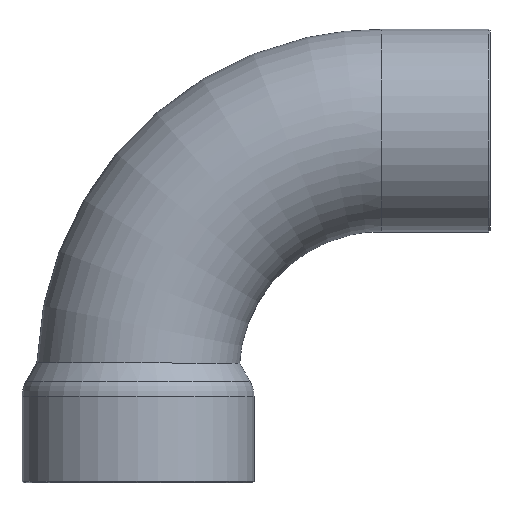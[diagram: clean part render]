
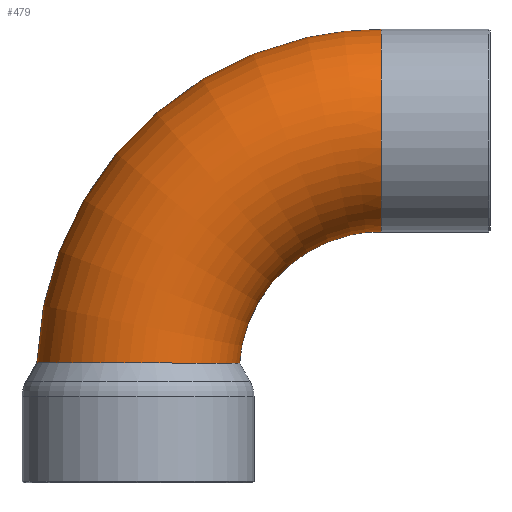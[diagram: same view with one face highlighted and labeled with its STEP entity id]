
A CAD part, left-side view. The second image highlights one B-rep face of the part: STEP entity #479.
In plain terms, the highlighted toroidal (fillet/blend) face has major radius 80 mm and minor radius 33.337 mm.
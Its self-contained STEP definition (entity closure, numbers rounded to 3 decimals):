
#101=CARTESIAN_POINT('',(33.338,0.,80.0));
#102=VERTEX_POINT('',#101);
#103=CARTESIAN_POINT('',(0.0,0.,80.0));
#104=DIRECTION('',(0.0,1.0,0.0));
#105=DIRECTION('',(-1.0,0.0,0.0));
#106=AXIS2_PLACEMENT_3D('',#103,#104,#105);
#107=CIRCLE('',#106,33.338);
#108=EDGE_CURVE('',#102,#102,#107,.T.);
#340=CARTESIAN_POINT('',(0.,113.276,3.726));
#341=VERTEX_POINT('',#340);
#342=CARTESIAN_POINT('',(0.,113.276,3.726));
#343=CARTESIAN_POINT('',(-2.98,113.276,3.726));
#344=CARTESIAN_POINT('',(-5.947,112.876,3.725));
#345=CARTESIAN_POINT('',(-11.676,111.304,3.721));
#346=CARTESIAN_POINT('',(-14.413,110.143,3.718));
#347=CARTESIAN_POINT('',(-20.756,106.393,3.709));
#348=CARTESIAN_POINT('',(-24.068,103.418,3.701));
#349=CARTESIAN_POINT('',(-29.374,96.314,3.68));
#350=CARTESIAN_POINT('',(-31.298,92.243,3.667));
#351=CARTESIAN_POINT('',(-33.424,83.623,3.635));
#352=CARTESIAN_POINT('',(-33.62,79.164,3.617));
#353=CARTESIAN_POINT('',(-32.261,70.403,3.576));
#354=CARTESIAN_POINT('',(-30.708,66.189,3.553));
#355=CARTESIAN_POINT('',(-26.144,58.777,3.506));
#356=CARTESIAN_POINT('',(-23.238,55.612,3.483));
#357=CARTESIAN_POINT('',(-16.261,50.447,3.441));
#358=CARTESIAN_POINT('',(-12.218,48.548,3.424));
#359=CARTESIAN_POINT('',(-4.592,46.679,3.406));
#360=CARTESIAN_POINT('',(-1.156,46.382,3.403));
#361=CARTESIAN_POINT('',(6.432,46.9,3.408));
#362=CARTESIAN_POINT('',(10.508,47.966,3.419));
#363=CARTESIAN_POINT('',(18.312,51.672,3.451));
#364=CARTESIAN_POINT('',(21.917,54.377,3.474));
#365=CARTESIAN_POINT('',(27.724,60.899,3.52));
#366=CARTESIAN_POINT('',(29.925,64.604,3.544));
#367=CARTESIAN_POINT('',(32.796,72.593,3.587));
#368=CARTESIAN_POINT('',(33.458,76.797,3.607));
#369=CARTESIAN_POINT('',(33.181,85.247,3.642));
#370=CARTESIAN_POINT('',(32.237,89.416,3.657));
#371=CARTESIAN_POINT('',(28.826,97.213,3.683));
#372=CARTESIAN_POINT('',(26.377,100.762,3.693));
#373=CARTESIAN_POINT('',(20.249,106.767,3.71));
#374=CARTESIAN_POINT('',(16.618,109.156,3.716));
#375=CARTESIAN_POINT('',(8.624,112.431,3.724));
#376=CARTESIAN_POINT('',(4.333,113.276,3.726));
#377=CARTESIAN_POINT('',(0.,113.276,3.726));
#378=B_SPLINE_CURVE_WITH_KNOTS('',3,(#342,#343,#344,#345,#346,#347,#348,#349,#350,#351,#352,#353,#354,#355,#356,#357,#358,#359,#360,#361,#362,#363,#364,#365,#366,#367,#368,#369,#370,#371,#372,#373,#374,#375,#376,#377),.UNSPECIFIED.,.T.,.U.,(4,2,2,2,2,2,2,2,2,2,2,2,2,2,2,2,2,4),(-21.018,-20.124,-19.235,-17.913,-16.575,-15.25,-13.916,-12.638,-11.311,-10.283,-9.03,-7.691,-6.41,-5.145,-3.874,-2.592,-1.3,0.0),.UNSPECIFIED.);
#379=EDGE_CURVE('',#341,#341,#378,.T.);
#468=CARTESIAN_POINT('',(0.0,0.0,0.0));
#469=DIRECTION('',(1.0,0.0,0.0));
#470=DIRECTION('',(0.0,0.0,-1.0));
#471=AXIS2_PLACEMENT_3D('',#468,#469,#470);
#472=TOROIDAL_SURFACE('',#471,80.0,33.338);
#473=ORIENTED_EDGE('',*,*,#108,.T.);
#474=EDGE_LOOP('',(#473));
#475=FACE_OUTER_BOUND('',#474,.T.);
#476=ORIENTED_EDGE('',*,*,#379,.T.);
#477=EDGE_LOOP('',(#476));
#478=FACE_BOUND('',#477,.T.);
#479=ADVANCED_FACE('',(#475,#478),#472,.T.);
